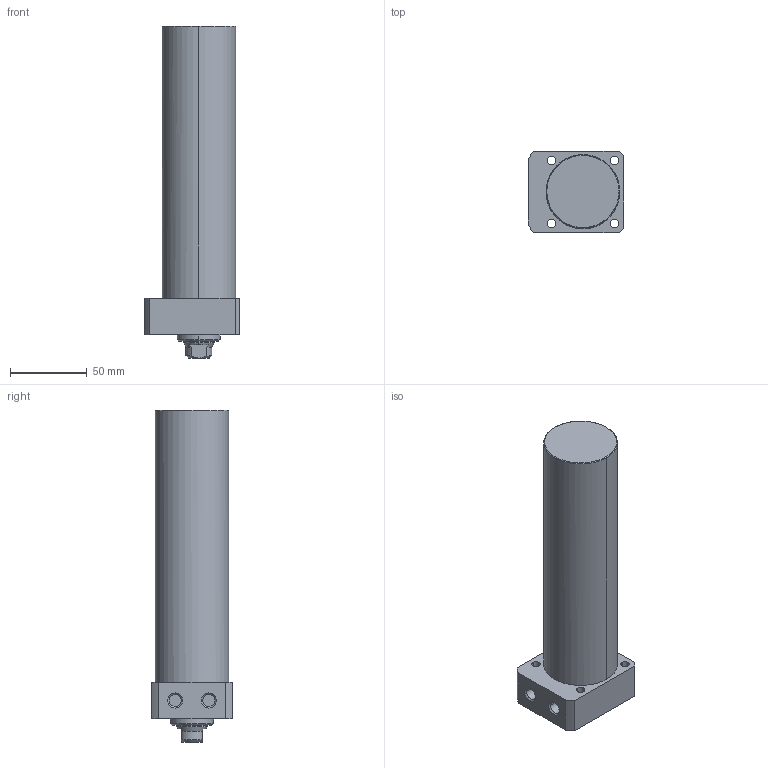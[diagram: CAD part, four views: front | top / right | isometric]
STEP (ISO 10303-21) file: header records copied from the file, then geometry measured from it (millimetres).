
FILE_DESCRIPTION((' '),'2;1');
FILE_NAME( 'TLLR-048CA-150.STEP.stp', '2025-10-24T16:34:32', (' '), ('--- Datakit www.datakit.com---'), ' Datakit CrossCadWare V2024.1 Dec 21 2023', 'Mastercam 2025', ' ');
FILE_SCHEMA(('AUTOMOTIVE_DESIGN { 1 0 10303 214 1 1 1 1 }'));
Length unit declared in the file: millimetre
Products named in the file (1): TLLR-048CA-150
Bounding box: 62 x 53 x 216 mm (x, y, z)
Volume: 398641.8 mm3; surface area: 42054.4 mm2
Topology: 1 solids, 1 shells, 63 faces, 177 edges, 122 vertices
Faces by surface type: cylinder 28, plane 19, cone 14, torus 2
Entity records: 2172 total; most frequent: CARTESIAN_POINT 409, DIRECTION 400, ORIENTED_EDGE 350, EDGE_CURVE 175, AXIS2_PLACEMENT_3D 169, VERTEX_POINT 122, CIRCLE 105, EDGE_LOOP 79
